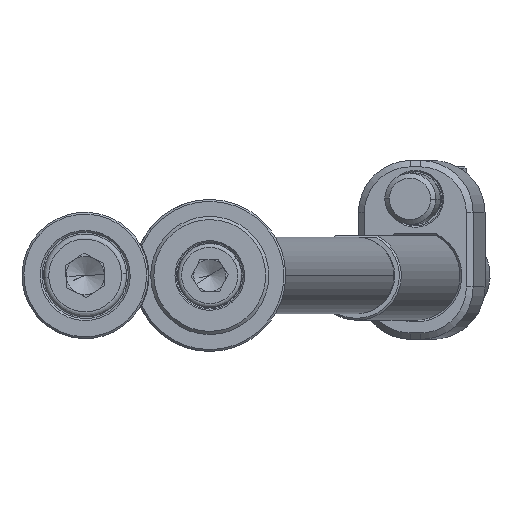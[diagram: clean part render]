
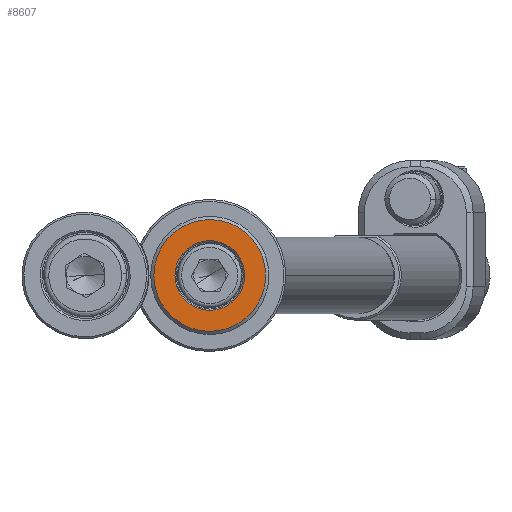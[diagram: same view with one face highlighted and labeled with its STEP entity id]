
A CAD part, front view. The second image highlights one B-rep face of the part: STEP entity #8607.
In plain terms, the highlighted planar face has unit normal (0, -1, 0).
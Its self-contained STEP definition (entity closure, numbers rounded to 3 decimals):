
#581 = VERTEX_POINT ( 'NONE', #7225 ) ;
#800 = CIRCLE ( 'NONE', #8910, 8.75 ) ;
#1037 = DIRECTION ( 'NONE',  ( 0., 1., 0. ) ) ;
#1074 = CARTESIAN_POINT ( 'NONE',  ( -2.753, -4., 4.704 ) ) ;
#1094 = ORIENTED_EDGE ( 'NONE', *, *, #5381, .T. ) ;
#1109 = CIRCLE ( 'NONE', #7828, 5.45 ) ;
#1364 = VERTEX_POINT ( 'NONE', #1074 ) ;
#1500 = EDGE_LOOP ( 'NONE', ( #10645, #12352 ) ) ;
#1623 = DIRECTION ( 'NONE',  ( 0., -1., 0. ) ) ;
#1735 = CIRCLE ( 'NONE', #8673, 8.75 ) ;
#1771 = FACE_OUTER_BOUND ( 'NONE', #9819, .T. ) ;
#2726 = AXIS2_PLACEMENT_3D ( 'NONE', #9827, #1037, #3337 ) ;
#3005 = EDGE_CURVE ( 'NONE', #581, #1364, #7108, .T. ) ;
#3337 = DIRECTION ( 'NONE',  ( -0.505, 0., 0.863 ) ) ;
#3709 = CARTESIAN_POINT ( 'NONE',  ( 0., -4., 0. ) ) ;
#3910 = EDGE_CURVE ( 'NONE', #1364, #581, #1109, .T. ) ;
#4003 = FACE_BOUND ( 'NONE', #1500, .T. ) ;
#4299 = VERTEX_POINT ( 'NONE', #12437 ) ;
#5024 = VERTEX_POINT ( 'NONE', #13999 ) ;
#5381 = EDGE_CURVE ( 'NONE', #5024, #4299, #1735, .T. ) ;
#6612 = AXIS2_PLACEMENT_3D ( 'NONE', #11875, #9626, #9553 ) ;
#7108 = CIRCLE ( 'NONE', #6612, 5.45 ) ;
#7225 = CARTESIAN_POINT ( 'NONE',  ( 2.753, -4., -4.704 ) ) ;
#7828 = AXIS2_PLACEMENT_3D ( 'NONE', #12688, #13978, #8376 ) ;
#7998 = ORIENTED_EDGE ( 'NONE', *, *, #13501, .T. ) ;
#8376 = DIRECTION ( 'NONE',  ( -0.505, 0., 0.863 ) ) ;
#8607 = ADVANCED_FACE ( 'NONE', ( #4003, #1771 ), #10646, .F. ) ;
#8673 = AXIS2_PLACEMENT_3D ( 'NONE', #13355, #12208, #8776 ) ;
#8776 = DIRECTION ( 'NONE',  ( -0.505, 0., 0.863 ) ) ;
#8910 = AXIS2_PLACEMENT_3D ( 'NONE', #3709, #1623, #9472 ) ;
#9472 = DIRECTION ( 'NONE',  ( -0.505, 0., 0.863 ) ) ;
#9553 = DIRECTION ( 'NONE',  ( -0.505, 0., 0.863 ) ) ;
#9626 = DIRECTION ( 'NONE',  ( 0., 1., 0. ) ) ;
#9819 = EDGE_LOOP ( 'NONE', ( #7998, #1094 ) ) ;
#9827 = CARTESIAN_POINT ( 'NONE',  ( -4.531, -4., -2.652 ) ) ;
#10645 = ORIENTED_EDGE ( 'NONE', *, *, #3005, .T. ) ;
#10646 = PLANE ( 'NONE',  #2726 ) ;
#11875 = CARTESIAN_POINT ( 'NONE',  ( 0., -4., 0. ) ) ;
#12208 = DIRECTION ( 'NONE',  ( 0., -1., 0. ) ) ;
#12352 = ORIENTED_EDGE ( 'NONE', *, *, #3910, .T. ) ;
#12437 = CARTESIAN_POINT ( 'NONE',  ( -4.42, -4., 7.552 ) ) ;
#12688 = CARTESIAN_POINT ( 'NONE',  ( 0., -4., 0. ) ) ;
#13355 = CARTESIAN_POINT ( 'NONE',  ( 0., -4., 0. ) ) ;
#13501 = EDGE_CURVE ( 'NONE', #4299, #5024, #800, .T. ) ;
#13978 = DIRECTION ( 'NONE',  ( 0., 1., 0. ) ) ;
#13999 = CARTESIAN_POINT ( 'NONE',  ( 4.42, -4., -7.552 ) ) ;
